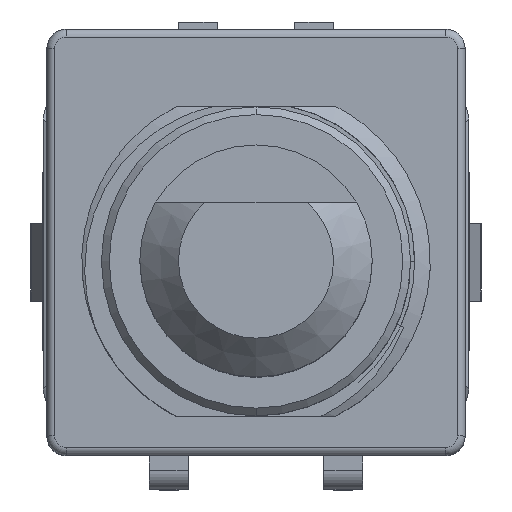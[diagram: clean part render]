
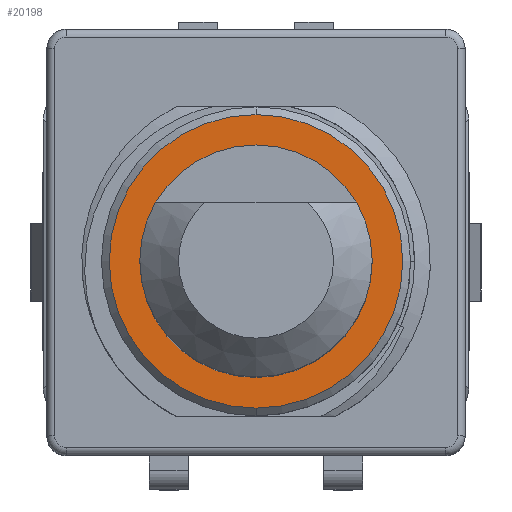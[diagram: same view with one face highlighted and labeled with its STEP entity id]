
A CAD part, top view. The second image highlights one B-rep face of the part: STEP entity #20198.
In plain terms, the highlighted planar face has unit normal (0, 0, 1).
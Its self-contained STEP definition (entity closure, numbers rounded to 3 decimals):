
#63 = CIRCLE ( 'NONE', #1067, 1.5 ) ;
#110 = EDGE_CURVE ( 'NONE', #2941, #12023, #12835, .T. ) ;
#280 = FACE_BOUND ( 'NONE', #22997, .T. ) ;
#1067 = AXIS2_PLACEMENT_3D ( 'NONE', #18166, #18079, #17989 ) ;
#2056 = DIRECTION ( 'NONE',  ( 1., 0., 0. ) ) ;
#2125 = VERTEX_POINT ( 'NONE', #25441 ) ;
#2433 = CARTESIAN_POINT ( 'NONE',  ( 0., 0., 10.15 ) ) ;
#2941 = VERTEX_POINT ( 'NONE', #26048 ) ;
#4982 = CARTESIAN_POINT ( 'NONE',  ( 0., 0., 10.15 ) ) ;
#5214 = ORIENTED_EDGE ( 'NONE', *, *, #6415, .F. ) ;
#5785 = CIRCLE ( 'NONE', #10852, 1.5 ) ;
#6415 = EDGE_CURVE ( 'NONE', #12696, #2125, #63, .T. ) ;
#6725 = CARTESIAN_POINT ( 'NONE',  ( 0., 0., 10.15 ) ) ;
#6921 = AXIS2_PLACEMENT_3D ( 'NONE', #2433, #15500, #22033 ) ;
#7027 = DIRECTION ( 'NONE',  ( 0., 1., 0. ) ) ;
#8337 = AXIS2_PLACEMENT_3D ( 'NONE', #4982, #19351, #7027 ) ;
#9088 = ORIENTED_EDGE ( 'NONE', *, *, #19583, .F. ) ;
#9133 = DIRECTION ( 'NONE',  ( 0., 1., 0. ) ) ;
#9290 = ORIENTED_EDGE ( 'NONE', *, *, #110, .T. ) ;
#10852 = AXIS2_PLACEMENT_3D ( 'NONE', #26812, #14336, #2056 ) ;
#11140 = FACE_OUTER_BOUND ( 'NONE', #18533, .T. ) ;
#12023 = VERTEX_POINT ( 'NONE', #23957 ) ;
#12696 = VERTEX_POINT ( 'NONE', #23297 ) ;
#12835 = CIRCLE ( 'NONE', #6921, 3.79 ) ;
#14336 = DIRECTION ( 'NONE',  ( 0., 0., 1. ) ) ;
#15500 = DIRECTION ( 'NONE',  ( 0., 0., 1. ) ) ;
#15945 = AXIS2_PLACEMENT_3D ( 'NONE', #6725, #21179, #9133 ) ;
#17989 = DIRECTION ( 'NONE',  ( 1., 0., 0. ) ) ;
#18079 = DIRECTION ( 'NONE',  ( 0., 0., 1. ) ) ;
#18166 = CARTESIAN_POINT ( 'NONE',  ( 0., 0., 10.15 ) ) ;
#18533 = EDGE_LOOP ( 'NONE', ( #9290, #20910 ) ) ;
#19351 = DIRECTION ( 'NONE',  ( 0., 0., 1. ) ) ;
#19583 = EDGE_CURVE ( 'NONE', #2125, #12696, #5785, .T. ) ;
#20086 = CIRCLE ( 'NONE', #15945, 3.79 ) ;
#20198 = ADVANCED_FACE ( 'NONE', ( #11140, #280 ), #21384, .T. ) ;
#20910 = ORIENTED_EDGE ( 'NONE', *, *, #22381, .T. ) ;
#21179 = DIRECTION ( 'NONE',  ( 0., 0., 1. ) ) ;
#21384 = PLANE ( 'NONE',  #8337 ) ;
#22033 = DIRECTION ( 'NONE',  ( 0., 1., 0. ) ) ;
#22381 = EDGE_CURVE ( 'NONE', #12023, #2941, #20086, .T. ) ;
#22997 = EDGE_LOOP ( 'NONE', ( #9088, #5214 ) ) ;
#23297 = CARTESIAN_POINT ( 'NONE',  ( 0., -1.5, 10.15 ) ) ;
#23957 = CARTESIAN_POINT ( 'NONE',  ( 0., 3.79, 10.15 ) ) ;
#25441 = CARTESIAN_POINT ( 'NONE',  ( 0., 1.5, 10.15 ) ) ;
#26048 = CARTESIAN_POINT ( 'NONE',  ( 0., -3.79, 10.15 ) ) ;
#26812 = CARTESIAN_POINT ( 'NONE',  ( 0., 0., 10.15 ) ) ;
